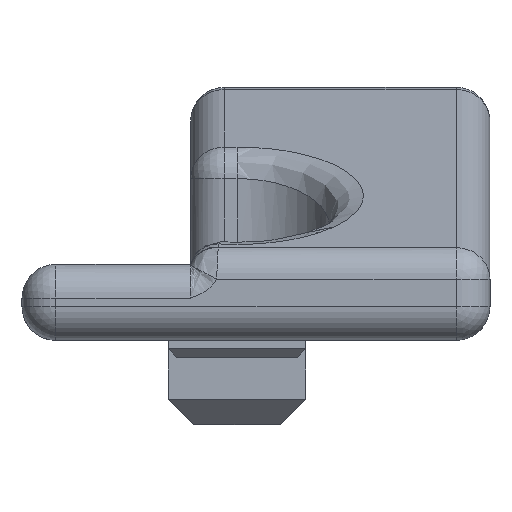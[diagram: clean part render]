
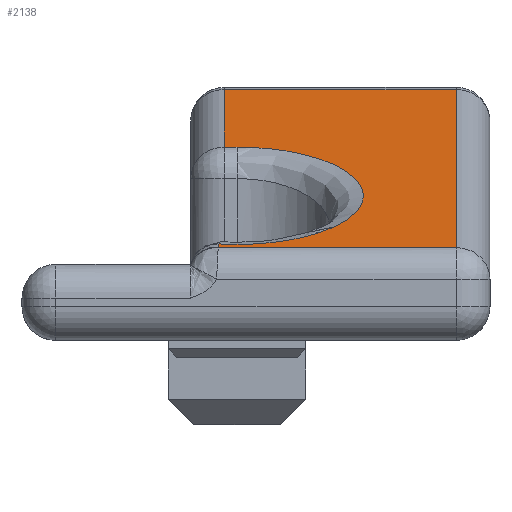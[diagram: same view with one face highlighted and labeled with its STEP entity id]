
A CAD part, front view. The second image highlights one B-rep face of the part: STEP entity #2138.
In plain terms, the highlighted planar face has unit normal (0, -0.359, 0.933) as drawn and (0.933, -0.359, 0) by its records, which use the part's own axes.
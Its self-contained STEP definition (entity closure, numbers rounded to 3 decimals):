
#60=B_SPLINE_CURVE_WITH_KNOTS('',3,(#3751,#3752,#3753,#3754),
 .UNSPECIFIED.,.F.,.F.,(4,4),(1.781,1.79),
 .UNSPECIFIED.);
#61=B_SPLINE_CURVE_WITH_KNOTS('',3,(#3777,#3778,#3779,#3780),
 .UNSPECIFIED.,.F.,.F.,(4,4),(-1.712,-1.66),
 .UNSPECIFIED.);
#67=ELLIPSE('',#2329,8.036,7.5);
#68=ELLIPSE('',#2330,8.036,7.5);
#282=FACE_OUTER_BOUND('',#422,.T.);
#422=EDGE_LOOP('',(#1717,#1718,#1719,#1720,#1721,#1722,#1723,#1724,#1725));
#634=LINE('',#3927,#832);
#635=LINE('',#3929,#833);
#636=LINE('',#3931,#834);
#637=LINE('',#3933,#835);
#638=LINE('',#3935,#836);
#832=VECTOR('',#2804,10.);
#833=VECTOR('',#2805,10.);
#834=VECTOR('',#2806,10.);
#835=VECTOR('',#2807,10.);
#836=VECTOR('',#2808,10.);
#1023=VERTEX_POINT('',#3745);
#1025=VERTEX_POINT('',#3749);
#1026=VERTEX_POINT('',#3775);
#1030=VERTEX_POINT('',#3926);
#1031=VERTEX_POINT('',#3928);
#1032=VERTEX_POINT('',#3930);
#1033=VERTEX_POINT('',#3932);
#1034=VERTEX_POINT('',#3934);
#1035=VERTEX_POINT('',#3936);
#1269=EDGE_CURVE('',#1025,#1023,#60,.T.);
#1271=EDGE_CURVE('',#1023,#1026,#61,.T.);
#1278=EDGE_CURVE('',#1030,#1025,#634,.T.);
#1279=EDGE_CURVE('',#1031,#1030,#635,.T.);
#1280=EDGE_CURVE('',#1032,#1031,#636,.T.);
#1281=EDGE_CURVE('',#1033,#1032,#637,.T.);
#1282=EDGE_CURVE('',#1034,#1033,#638,.T.);
#1283=EDGE_CURVE('',#1035,#1034,#67,.T.);
#1284=EDGE_CURVE('',#1026,#1035,#68,.T.);
#1717=ORIENTED_EDGE('',*,*,#1271,.F.);
#1718=ORIENTED_EDGE('',*,*,#1269,.F.);
#1719=ORIENTED_EDGE('',*,*,#1278,.F.);
#1720=ORIENTED_EDGE('',*,*,#1279,.F.);
#1721=ORIENTED_EDGE('',*,*,#1280,.F.);
#1722=ORIENTED_EDGE('',*,*,#1281,.F.);
#1723=ORIENTED_EDGE('',*,*,#1282,.F.);
#1724=ORIENTED_EDGE('',*,*,#1283,.F.);
#1725=ORIENTED_EDGE('',*,*,#1284,.F.);
#2044=PLANE('',#2328);
#2138=ADVANCED_FACE('',(#282),#2044,.T.);
#2328=AXIS2_PLACEMENT_3D('',#3925,#2802,#2803);
#2329=AXIS2_PLACEMENT_3D('',#3937,#2809,#2810);
#2330=AXIS2_PLACEMENT_3D('',#3938,#2811,#2812);
#2802=DIRECTION('center_axis',(0.933,-0.359,0.));
#2803=DIRECTION('ref_axis',(0.,0.,
1.));
#2804=DIRECTION('',(0.,0.,1.));
#2805=DIRECTION('',(-0.359,-0.933,0.));
#2806=DIRECTION('',(0.,0.,-1.));
#2807=DIRECTION('',(0.359,0.933,0.));
#2808=DIRECTION('',(0.,0.,1.));
#2809=DIRECTION('center_axis',(0.933,-0.359,0.));
#2810=DIRECTION('ref_axis',(0.359,0.933,0.));
#2811=DIRECTION('center_axis',(0.933,-0.359,0.));
#2812=DIRECTION('ref_axis',(-0.359,-0.933,0.));
#3745=CARTESIAN_POINT('',(-45.98,-30.886,186.108));
#3749=CARTESIAN_POINT('',(-46.015,-30.976,186.12));
#3751=CARTESIAN_POINT('Ctrl Pts',(-46.015,-30.976,186.12));
#3752=CARTESIAN_POINT('Ctrl Pts',(-46.003,-30.946,186.116));
#3753=CARTESIAN_POINT('Ctrl Pts',(-45.992,-30.916,186.112));
#3754=CARTESIAN_POINT('Ctrl Pts',(-45.98,-30.886,186.108));
#3775=CARTESIAN_POINT('',(-45.794,-30.402,186.051));
#3777=CARTESIAN_POINT('Ctrl Pts',(-45.98,-30.886,186.108));
#3778=CARTESIAN_POINT('Ctrl Pts',(-45.918,-30.725,186.085));
#3779=CARTESIAN_POINT('Ctrl Pts',(-45.856,-30.564,186.066));
#3780=CARTESIAN_POINT('Ctrl Pts',(-45.794,-30.402,186.051));
#3925=CARTESIAN_POINT('Origin',(-41.508,-19.258,172.));
#3926=CARTESIAN_POINT('',(-46.015,-30.976,172.));
#3927=CARTESIAN_POINT('',(-46.015,-30.976,173.));
#3928=CARTESIAN_POINT('',(-36.641,-6.604,172.));
#3929=CARTESIAN_POINT('',(-34.446,-0.897,172.));
#3930=CARTESIAN_POINT('',(-36.641,-6.604,185.75));
#3931=CARTESIAN_POINT('',(-36.641,-6.604,171.));
#3932=CARTESIAN_POINT('',(-40.053,-15.476,185.75));
#3933=CARTESIAN_POINT('',(-44.04,-25.842,185.75));
#3934=CARTESIAN_POINT('',(-40.053,-15.476,185.));
#3935=CARTESIAN_POINT('',(-40.053,-15.476,178.5));
#3936=CARTESIAN_POINT('',(-45.141,-28.704,180.159));
#3937=CARTESIAN_POINT('Origin',(-42.938,-22.976,185.));
#3938=CARTESIAN_POINT('Origin',(-42.938,-22.976,185.));
